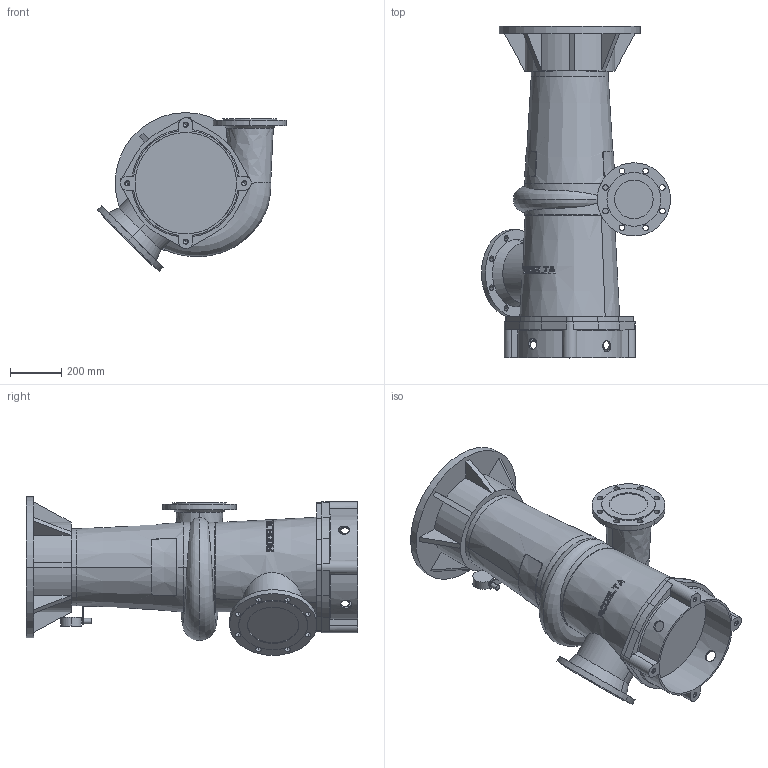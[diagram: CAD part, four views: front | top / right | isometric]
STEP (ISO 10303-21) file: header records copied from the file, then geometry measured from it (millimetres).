
FILE_DESCRIPTION((''),'2;1');
FILE_NAME('7410_VOOR_BLAD_ASM','2024-07-24T',('Lyritlocal'),(''),'PRO/ENGINEER BY PARAMETRIC TECHNOLOGY CORPORATION, 2016360','PRO/ENGINEER BY PARAMETRIC TECHNOLOGY CORPORATION, 2016360','');
FILE_SCHEMA(('CONFIG_CONTROL_DESIGN'));
Length unit declared in the file: millimetre
Products named in the file (3): 7410; 7410_VOET; 7410_VOOR_BLAD_ASM
Assembly tree (2 placements, depth 2):
  7410_VOOR_BLAD_ASM
    7410
    7410_VOET
Bounding box: 736.15 x 1292 x 618.65 mm (x, y, z)
Volume: 142858668 mm3; surface area: 3346063.5 mm2
Topology: 2 solids, 6 shells, 554 faces, 1491 edges, 983 vertices
Faces by surface type: plane 368, cylinder 138, cone 38, bspline 6, torus 4
Entity records: 19705 total; most frequent: CARTESIAN_POINT 6220, ORIENTED_EDGE 2950, DIRECTION 2529, EDGE_CURVE 1483, VERTEX_POINT 983, AXIS2_PLACEMENT_3D 961, EDGE_LOOP 646, VECTOR 607
